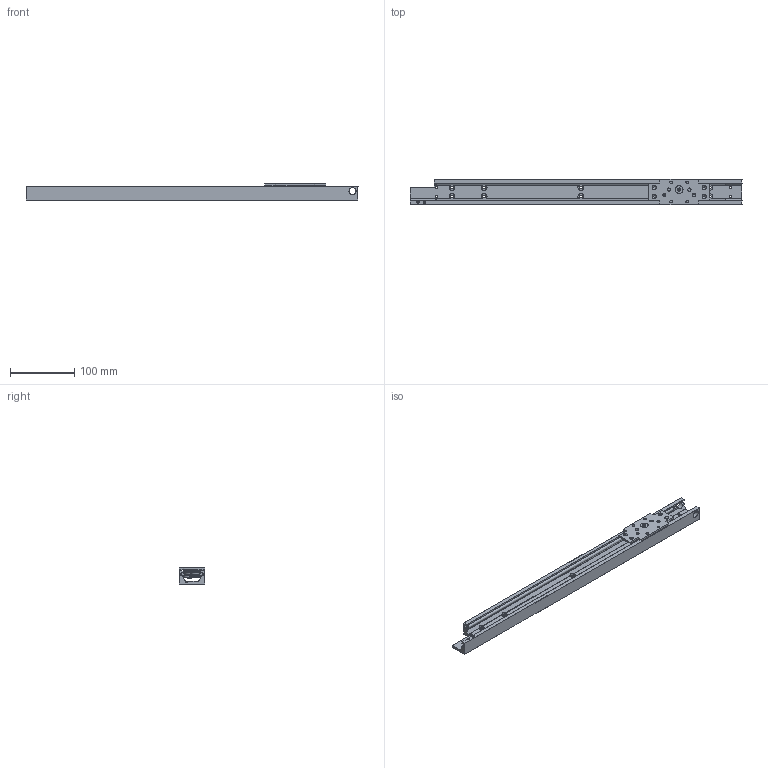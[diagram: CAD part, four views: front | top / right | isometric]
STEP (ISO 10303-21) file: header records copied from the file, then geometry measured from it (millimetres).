
FILE_DESCRIPTION((''),'1');
FILE_NAME('H:/図庫/国内ﾕﾆｯﾄ/ﾌﾙﾗｲﾄﾞ/ホームページ用ＣＡＤ図面/最新/3D/40SW0515S_HP.stp','2016-11-30T07:48:46',(''),(''),'Spatial Interop R21 SP3','Kubotek KeyCreator 2011 V10.0.2 (22737)',' ');
FILE_SCHEMA(('automotive_design'));
Length unit declared in the file: millimetre
Products named in the file (169): Unnamed[1]
Bounding box: 515 x 40 x 25.03 mm (x, y, z)
Surface area: 111349.8 mm2 (no closed solid volume)
Topology: 0 solids, 318 shells, 318 faces, 1435 edges, 1326 vertices
Faces by surface type: cylinder 140, plane 116, cone 37, bspline 19, torus 6
Full cylindrical faces by diameter (mm): 3 x3, 3.1 x4, 3.3 x2, 3.5 x4, 4 x4, 4.2 x8, 5 x5, 6 x4, 6.03 x2, 7 x3, 7.8 x3, 9 x8, 10 x3, 11 x4, 13 x1, 17 x4, 19.9 x2
Entity records: 25201 total; most frequent: CARTESIAN_POINT 6040, DIRECTION 2514, ORIENTED_EDGE 1310, EDGE_CURVE 1310, VERTEX_POINT 1310, AXIS2_PLACEMENT_3D 1076, PRESENTATION_STYLE_ASSIGNMENT 974, COLOUR_RGB 974
